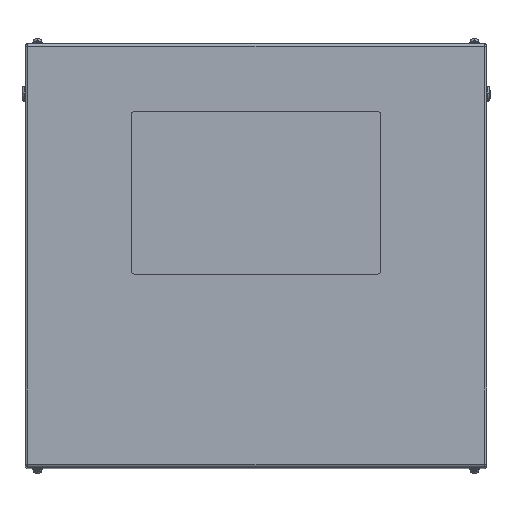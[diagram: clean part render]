
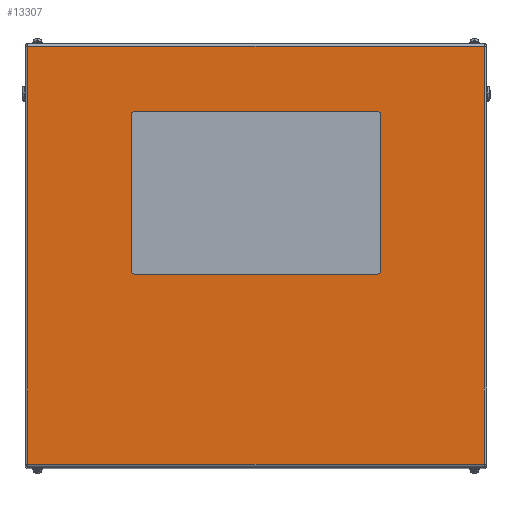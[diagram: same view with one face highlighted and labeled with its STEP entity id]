
A CAD part, top view. The second image highlights one B-rep face of the part: STEP entity #13307.
In plain terms, the highlighted planar face has unit normal (0, 0, 1).
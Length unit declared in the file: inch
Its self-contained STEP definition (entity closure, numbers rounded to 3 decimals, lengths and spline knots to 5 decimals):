
#654 = DIRECTION ( 'NONE',  ( 1., 0., 0. ) ) ;
#1288 = EDGE_CURVE ( 'NONE', #8955, #12518, #15928, .T. ) ;
#1290 = CARTESIAN_POINT ( 'NONE',  ( -9.75, -1.25, 33. ) ) ;
#2018 = LINE ( 'NONE', #8559, #6230 ) ;
#2081 = VECTOR ( 'NONE', #11921, 39.37008 ) ;
#2137 = VECTOR ( 'NONE', #16094, 39.37008 ) ;
#2577 = EDGE_CURVE ( 'NONE', #12518, #4745, #19439, .T. ) ;
#2705 = ORIENTED_EDGE ( 'NONE', *, *, #20251, .T. ) ;
#2976 = LINE ( 'NONE', #17866, #7655 ) ;
#3078 = DIRECTION ( 'NONE',  ( 0., 0., 1. ) ) ;
#3216 = CARTESIAN_POINT ( 'NONE',  ( 10., -1.25, 33. ) ) ;
#3258 = CARTESIAN_POINT ( 'NONE',  ( 9.75, 11.5, 33. ) ) ;
#3411 = CARTESIAN_POINT ( 'NONE',  ( -9.75, 11.5, 33. ) ) ;
#3759 = FACE_BOUND ( 'NONE', #13684, .T. ) ;
#4246 = EDGE_CURVE ( 'NONE', #8984, #5359, #7945, .T. ) ;
#4452 = CARTESIAN_POINT ( 'NONE',  ( -10., 11.25, 33. ) ) ;
#4560 = DIRECTION ( 'NONE',  ( 0., -1., 0. ) ) ;
#4745 = VERTEX_POINT ( 'NONE', #7278 ) ;
#4905 = LINE ( 'NONE', #3411, #15240 ) ;
#5187 = VERTEX_POINT ( 'NONE', #16426 ) ;
#5261 = PLANE ( 'NONE',  #5476 ) ;
#5267 = DIRECTION ( 'NONE',  ( 1., 0., 0. ) ) ;
#5359 = VERTEX_POINT ( 'NONE', #3216 ) ;
#5413 = VERTEX_POINT ( 'NONE', #10022 ) ;
#5476 = AXIS2_PLACEMENT_3D ( 'NONE', #13302, #18127, #18346 ) ;
#5730 = VECTOR ( 'NONE', #4560, 39.37008 ) ;
#6021 = VECTOR ( 'NONE', #654, 39.37008 ) ;
#6230 = VECTOR ( 'NONE', #10344, 39.37008 ) ;
#6697 = CARTESIAN_POINT ( 'NONE',  ( 18.3, 16.734, 33. ) ) ;
#6990 = FACE_OUTER_BOUND ( 'NONE', #13414, .T. ) ;
#7278 = CARTESIAN_POINT ( 'NONE',  ( -9.75, -1.5, 33. ) ) ;
#7363 = ORIENTED_EDGE ( 'NONE', *, *, #15553, .T. ) ;
#7655 = VECTOR ( 'NONE', #15289, 39.37008 ) ;
#7936 = DIRECTION ( 'NONE',  ( -1., 0., 0. ) ) ;
#7945 = CIRCLE ( 'NONE', #16247, 0.25 ) ;
#8559 = CARTESIAN_POINT ( 'NONE',  ( 10., 11.25, 33. ) ) ;
#8800 = CARTESIAN_POINT ( 'NONE',  ( 18.3, -16.734, 33. ) ) ;
#8802 = ORIENTED_EDGE ( 'NONE', *, *, #11270, .F. ) ;
#8831 = VECTOR ( 'NONE', #15398, 39.37008 ) ;
#8937 = EDGE_CURVE ( 'NONE', #19047, #16982, #18096, .T. ) ;
#8955 = VERTEX_POINT ( 'NONE', #19693 ) ;
#8984 = VERTEX_POINT ( 'NONE', #18581 ) ;
#9698 = DIRECTION ( 'NONE',  ( 0., 0., 1. ) ) ;
#9865 = ORIENTED_EDGE ( 'NONE', *, *, #2577, .F. ) ;
#10022 = CARTESIAN_POINT ( 'NONE',  ( 10., 11.25, 33. ) ) ;
#10170 = AXIS2_PLACEMENT_3D ( 'NONE', #1290, #9698, #18098 ) ;
#10232 = EDGE_CURVE ( 'NONE', #13021, #8955, #13095, .T. ) ;
#10270 = DIRECTION ( 'NONE',  ( 1., 0., 0. ) ) ;
#10344 = DIRECTION ( 'NONE',  ( 0., 1., 0. ) ) ;
#10380 = DIRECTION ( 'NONE',  ( 0., 0., 1. ) ) ;
#10483 = VERTEX_POINT ( 'NONE', #15528 ) ;
#10905 = CARTESIAN_POINT ( 'NONE',  ( 9.75, 11.25, 33. ) ) ;
#11270 = EDGE_CURVE ( 'NONE', #5413, #18650, #20196, .T. ) ;
#11287 = AXIS2_PLACEMENT_3D ( 'NONE', #10905, #3078, #17448 ) ;
#11359 = EDGE_CURVE ( 'NONE', #5187, #10483, #20537, .T. ) ;
#11921 = DIRECTION ( 'NONE',  ( 0., 1., 0. ) ) ;
#12084 = CARTESIAN_POINT ( 'NONE',  ( 9.75, -1.25, 33. ) ) ;
#12518 = VERTEX_POINT ( 'NONE', #19932 ) ;
#13021 = VERTEX_POINT ( 'NONE', #13421 ) ;
#13095 = CIRCLE ( 'NONE', #19615, 0.25 ) ;
#13302 = CARTESIAN_POINT ( 'NONE',  ( 18.5, 17., 33. ) ) ;
#13307 = ADVANCED_FACE ( 'NONE', ( #3759, #6990 ), #5261, .F. ) ;
#13414 = EDGE_LOOP ( 'NONE', ( #19975, #2705, #15222, #7363 ) ) ;
#13421 = CARTESIAN_POINT ( 'NONE',  ( -9.75, 11.5, 33. ) ) ;
#13591 = ORIENTED_EDGE ( 'NONE', *, *, #4246, .F. ) ;
#13684 = EDGE_LOOP ( 'NONE', ( #17532, #9865, #16511, #20690, #16096, #8802, #15966, #13591 ) ) ;
#13758 = CARTESIAN_POINT ( 'NONE',  ( 18.3, 17., 33. ) ) ;
#14452 = CARTESIAN_POINT ( 'NONE',  ( 18.5, 16.734, 33. ) ) ;
#15045 = EDGE_CURVE ( 'NONE', #5359, #5413, #2018, .T. ) ;
#15222 = ORIENTED_EDGE ( 'NONE', *, *, #8937, .T. ) ;
#15240 = VECTOR ( 'NONE', #7936, 39.37008 ) ;
#15289 = DIRECTION ( 'NONE',  ( 1., 0., 0. ) ) ;
#15398 = DIRECTION ( 'NONE',  ( 0., -1., 0. ) ) ;
#15528 = CARTESIAN_POINT ( 'NONE',  ( -18.3, -16.734, 33. ) ) ;
#15553 = EDGE_CURVE ( 'NONE', #16982, #5187, #20703, .T. ) ;
#15928 = LINE ( 'NONE', #4452, #5730 ) ;
#15946 = EDGE_CURVE ( 'NONE', #4745, #8984, #2976, .T. ) ;
#15966 = ORIENTED_EDGE ( 'NONE', *, *, #15045, .F. ) ;
#16094 = DIRECTION ( 'NONE',  ( -1., 0., 0. ) ) ;
#16096 = ORIENTED_EDGE ( 'NONE', *, *, #18342, .F. ) ;
#16247 = AXIS2_PLACEMENT_3D ( 'NONE', #12084, #10380, #5267 ) ;
#16426 = CARTESIAN_POINT ( 'NONE',  ( -18.3, 16.734, 33. ) ) ;
#16511 = ORIENTED_EDGE ( 'NONE', *, *, #1288, .F. ) ;
#16982 = VERTEX_POINT ( 'NONE', #6697 ) ;
#17103 = CARTESIAN_POINT ( 'NONE',  ( -18.3, 17., 33. ) ) ;
#17448 = DIRECTION ( 'NONE',  ( -1., 0., 0. ) ) ;
#17532 = ORIENTED_EDGE ( 'NONE', *, *, #15946, .F. ) ;
#17866 = CARTESIAN_POINT ( 'NONE',  ( -9.75, -1.5, 33. ) ) ;
#18096 = LINE ( 'NONE', #13758, #2081 ) ;
#18098 = DIRECTION ( 'NONE',  ( 1., 0., 0. ) ) ;
#18126 = CARTESIAN_POINT ( 'NONE',  ( -9.75, 11.25, 33. ) ) ;
#18127 = DIRECTION ( 'NONE',  ( 0., 0., -1. ) ) ;
#18342 = EDGE_CURVE ( 'NONE', #18650, #13021, #4905, .T. ) ;
#18346 = DIRECTION ( 'NONE',  ( -1., 0., 0. ) ) ;
#18444 = DIRECTION ( 'NONE',  ( 0., 0., 1. ) ) ;
#18581 = CARTESIAN_POINT ( 'NONE',  ( 9.75, -1.5, 33. ) ) ;
#18640 = LINE ( 'NONE', #8800, #6021 ) ;
#18650 = VERTEX_POINT ( 'NONE', #3258 ) ;
#19047 = VERTEX_POINT ( 'NONE', #20410 ) ;
#19439 = CIRCLE ( 'NONE', #10170, 0.25 ) ;
#19615 = AXIS2_PLACEMENT_3D ( 'NONE', #18126, #18444, #10270 ) ;
#19693 = CARTESIAN_POINT ( 'NONE',  ( -10., 11.25, 33. ) ) ;
#19932 = CARTESIAN_POINT ( 'NONE',  ( -10., -1.25, 33. ) ) ;
#19975 = ORIENTED_EDGE ( 'NONE', *, *, #11359, .T. ) ;
#20196 = CIRCLE ( 'NONE', #11287, 0.25 ) ;
#20251 = EDGE_CURVE ( 'NONE', #10483, #19047, #18640, .T. ) ;
#20410 = CARTESIAN_POINT ( 'NONE',  ( 18.3, -16.734, 33. ) ) ;
#20537 = LINE ( 'NONE', #17103, #8831 ) ;
#20690 = ORIENTED_EDGE ( 'NONE', *, *, #10232, .F. ) ;
#20703 = LINE ( 'NONE', #14452, #2137 ) ;
